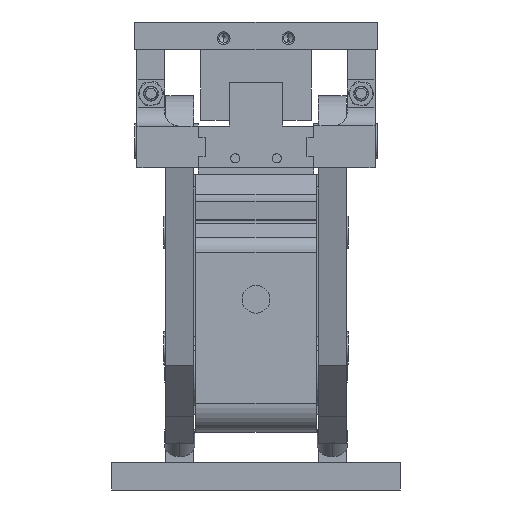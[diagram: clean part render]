
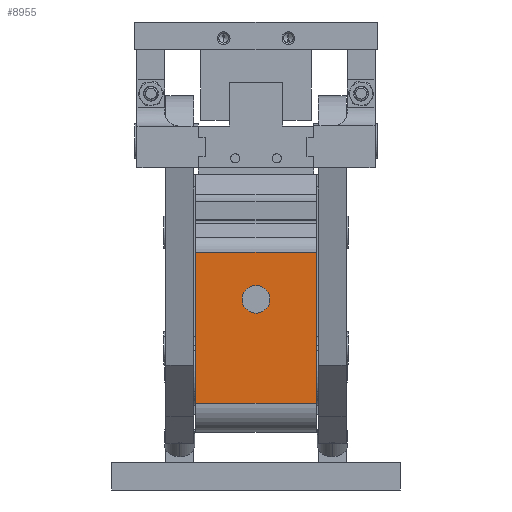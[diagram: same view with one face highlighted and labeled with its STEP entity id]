
A CAD part, left-side view. The second image highlights one B-rep face of the part: STEP entity #8955.
In plain terms, the highlighted planar face has unit normal (-1, 0, 0) as drawn and (0, 1, 0) by its records, which use the part's own axes.
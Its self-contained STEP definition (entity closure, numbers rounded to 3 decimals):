
#707 = CIRCLE ( 'NONE', #10731, 4. ) ;
#1078 = LINE ( 'NONE', #8170, #17009 ) ;
#1330 = VERTEX_POINT ( 'NONE', #4701 ) ;
#1353 = DIRECTION ( 'NONE',  ( 1., 0., 0. ) ) ;
#2109 = AXIS2_PLACEMENT_3D ( 'NONE', #11671, #14961, #22082 ) ;
#2423 = EDGE_CURVE ( 'NONE', #1330, #8856, #6800, .T. ) ;
#2638 = DIRECTION ( 'NONE',  ( 0., 0., -1. ) ) ;
#3157 = DIRECTION ( 'NONE',  ( 0., 0., -1. ) ) ;
#3690 = VERTEX_POINT ( 'NONE', #19667 ) ;
#4159 = EDGE_CURVE ( 'NONE', #3690, #20989, #707, .T. ) ;
#4548 = PLANE ( 'NONE',  #2109 ) ;
#4660 = DIRECTION ( 'NONE',  ( 0., 1., 0. ) ) ;
#4701 = CARTESIAN_POINT ( 'NONE',  ( -14., 51.5, -26. ) ) ;
#4839 = LINE ( 'NONE', #10196, #9715 ) ;
#6529 = VERTEX_POINT ( 'NONE', #7896 ) ;
#6800 = LINE ( 'NONE', #10644, #19659 ) ;
#6836 = ORIENTED_EDGE ( 'NONE', *, *, #8876, .T. ) ;
#7896 = CARTESIAN_POINT ( 'NONE',  ( 51.4, 51.5, 26. ) ) ;
#8170 = CARTESIAN_POINT ( 'NONE',  ( 51.4, 51.5, 27. ) ) ;
#8396 = DIRECTION ( 'NONE',  ( 0., 1., 0. ) ) ;
#8856 = VERTEX_POINT ( 'NONE', #14728 ) ;
#8876 = EDGE_CURVE ( 'NONE', #6529, #8856, #1078, .T. ) ;
#8955 = ADVANCED_FACE ( 'NONE', ( #17057, #15081 ), #4548, .F. ) ;
#9168 = ORIENTED_EDGE ( 'NONE', *, *, #2423, .F. ) ;
#9413 = EDGE_CURVE ( 'NONE', #20989, #3690, #21223, .T. ) ;
#9611 = CARTESIAN_POINT ( 'NONE',  ( -14., 51.5, 27. ) ) ;
#9674 = CARTESIAN_POINT ( 'NONE',  ( 31., 51.5, 0. ) ) ;
#9715 = VECTOR ( 'NONE', #20972, 1000. ) ;
#9789 = CARTESIAN_POINT ( 'NONE',  ( -14., 51.5, 26. ) ) ;
#9915 = DIRECTION ( 'NONE',  ( 0., 0., -1. ) ) ;
#10196 = CARTESIAN_POINT ( 'NONE',  ( -14., 51.5, 26. ) ) ;
#10408 = EDGE_LOOP ( 'NONE', ( #9168, #10631, #13640, #6836 ) ) ;
#10631 = ORIENTED_EDGE ( 'NONE', *, *, #22434, .F. ) ;
#10644 = CARTESIAN_POINT ( 'NONE',  ( -14., 51.5, -26. ) ) ;
#10731 = AXIS2_PLACEMENT_3D ( 'NONE', #9674, #4660, #16582 ) ;
#11488 = LINE ( 'NONE', #9611, #15016 ) ;
#11671 = CARTESIAN_POINT ( 'NONE',  ( -14., 51.5, 27. ) ) ;
#11867 = AXIS2_PLACEMENT_3D ( 'NONE', #12022, #8396, #3157 ) ;
#12022 = CARTESIAN_POINT ( 'NONE',  ( 31., 51.5, 0. ) ) ;
#12211 = CARTESIAN_POINT ( 'NONE',  ( 31., 51.5, 4. ) ) ;
#13640 = ORIENTED_EDGE ( 'NONE', *, *, #21322, .F. ) ;
#14100 = VERTEX_POINT ( 'NONE', #9789 ) ;
#14478 = ORIENTED_EDGE ( 'NONE', *, *, #4159, .F. ) ;
#14728 = CARTESIAN_POINT ( 'NONE',  ( 51.4, 51.5, -26. ) ) ;
#14961 = DIRECTION ( 'NONE',  ( 0., -1., 0. ) ) ;
#15016 = VECTOR ( 'NONE', #2638, 1000. ) ;
#15081 = FACE_OUTER_BOUND ( 'NONE', #10408, .T. ) ;
#16582 = DIRECTION ( 'NONE',  ( 0., 0., -1. ) ) ;
#16727 = ORIENTED_EDGE ( 'NONE', *, *, #9413, .F. ) ;
#16767 = EDGE_LOOP ( 'NONE', ( #14478, #16727 ) ) ;
#17009 = VECTOR ( 'NONE', #9915, 1000. ) ;
#17057 = FACE_BOUND ( 'NONE', #16767, .T. ) ;
#19659 = VECTOR ( 'NONE', #1353, 1000. ) ;
#19667 = CARTESIAN_POINT ( 'NONE',  ( 31., 51.5, -4. ) ) ;
#20972 = DIRECTION ( 'NONE',  ( -1., 0., 0. ) ) ;
#20989 = VERTEX_POINT ( 'NONE', #12211 ) ;
#21223 = CIRCLE ( 'NONE', #11867, 4. ) ;
#21322 = EDGE_CURVE ( 'NONE', #6529, #14100, #4839, .T. ) ;
#22082 = DIRECTION ( 'NONE',  ( 0., 0., -1. ) ) ;
#22434 = EDGE_CURVE ( 'NONE', #14100, #1330, #11488, .T. ) ;
